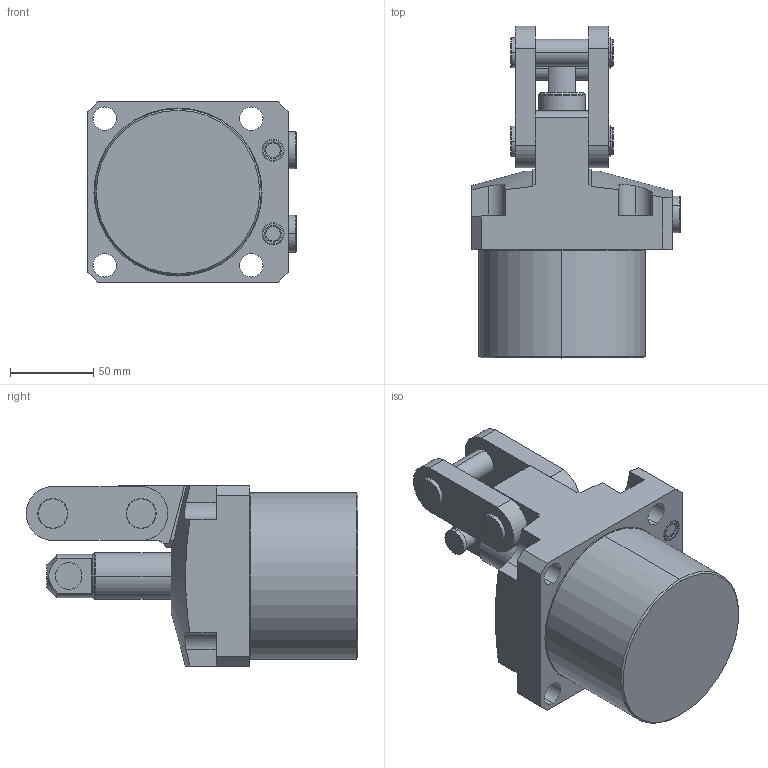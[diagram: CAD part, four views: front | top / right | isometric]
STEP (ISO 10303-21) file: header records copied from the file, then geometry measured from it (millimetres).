
FILE_DESCRIPTION(/* description */ (''),/* implementation_level */ '2;1');
FILE_NAME(/* name */ 'TPC25-L.stp',/* time_stamp */ '2025-01-05T10:25:15+08:00',/* author */ (''),/* organization */ (''),/* preprocessor_version */ 'ST-DEVELOPER v16.7',/* originating_system */ 'SIEMENS PLM Software NX 12.0',/* authorisation */ '');
FILE_SCHEMA (('AUTOMOTIVE_DESIGN { 1 0 10303 214 3 1 1 1 }'));
Length unit declared in the file: millimetre
Products named in the file (5): TPC25-L-01; TPC25-L-02; TPC25-L-03; TPC25-L-04; TPC25-L_stp
Assembly tree (5 placements, depth 2):
  TPC25-L_stp
    TPC25-L-04  x2
    TPC25-L-03
    TPC25-L-02
    TPC25-L-01
Bounding box: 124.8 x 199 x 108 mm (x, y, z)
Volume: 1130207.1 mm3; surface area: 108579.1 mm2
Topology: 5 solids, 7 shells, 285 faces, 674 edges, 428 vertices
Faces by surface type: cylinder 118, plane 114, torus 34, cone 19
Entity records: 7968 total; most frequent: CARTESIAN_POINT 1516, DIRECTION 1420, ORIENTED_EDGE 1256, EDGE_CURVE 628, AXIS2_PLACEMENT_3D 564, VERTEX_POINT 400, EDGE_LOOP 306, CIRCLE 295
